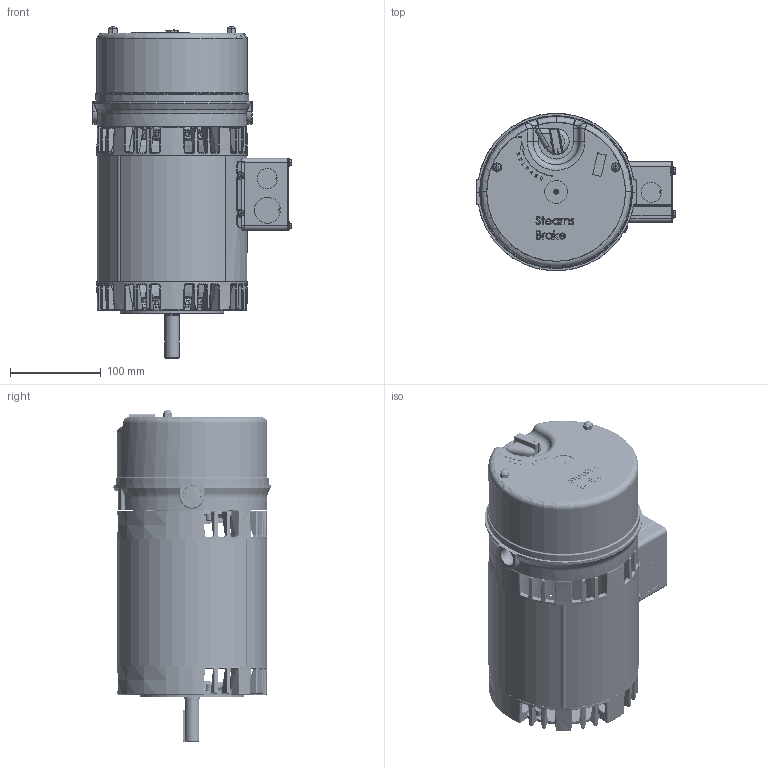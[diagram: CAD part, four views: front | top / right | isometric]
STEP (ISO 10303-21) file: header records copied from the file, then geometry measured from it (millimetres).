
FILE_DESCRIPTION (( 'STEP AP203' ), '1' );
FILE_NAME ('028525-550_Rev0.STEP', '2017-08-16T07:37:19', ( 'admin' ), ( '' ), 'SwSTEP 2.0', 'SolidWorks 2015', '' );
FILE_SCHEMA (( 'CONFIG_CONTROL_DESIGN' ));
Length unit declared in the file: inch
Products named in the file (1): 028525-550_Rev0
Bounding box: 220.42 x 173.6 x 366.52 mm (x, y, z)
Volume: 1078960.4 mm3; surface area: 713131.1 mm2
Topology: 50 solids, 50 shells, 4300 faces, 10475 edges, 6302 vertices
Faces by surface type: plane 1193, bspline 1045, cylinder 944, cone 525, torus 465, sphere 128
Entity records: 172202 total; most frequent: CARTESIAN_POINT 79055, ORIENTED_EDGE 20732, DIRECTION 17705, EDGE_CURVE 10366, AXIS2_PLACEMENT_3D 7130, VERTEX_POINT 6301, EDGE_LOOP 4639, FACE_OUTER_BOUND 4300
